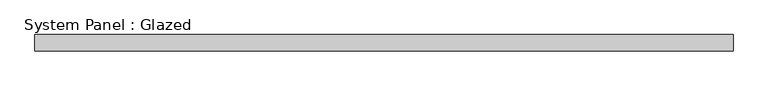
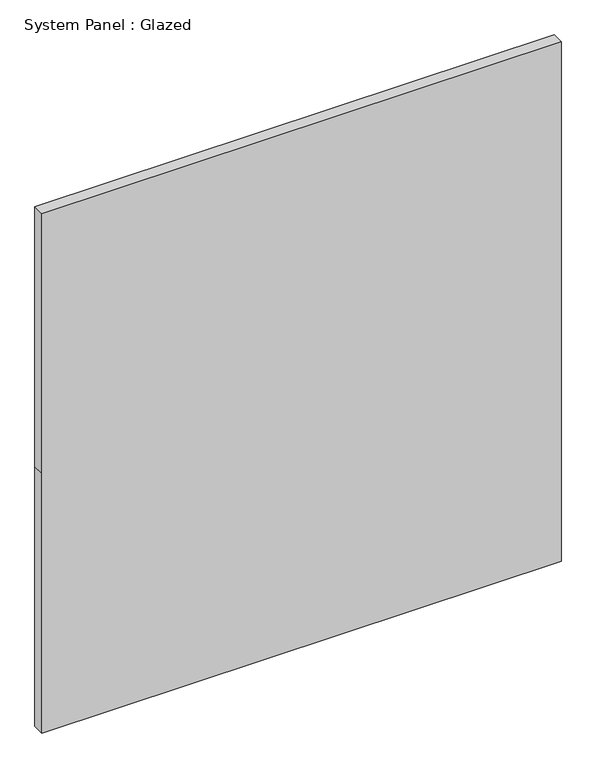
"""IFC4 building model written with IfcOpenShell, lengths in millimetres: plate geometry, System Panel : Glazed."""

import ifcopenshell
import ifcopenshell.guid

model = None  # the IFC model being written
_history = None  # IfcOwnerHistory: only IFC2X3 demands one
_inside = {}  # id of a spatial element -> (the spatial element, [elements in it])
_under = {}  # id of a project, library or spatial element -> (it, [spatial elements below it])
_declared = {}  # id of a project -> (the project, [libraries it declares])
_typed = {}  # id of a type object -> (the type object, [elements of that type])
_made_of = {}  # id of a material, layer set ... -> (it, [elements and type objects made of it])


def new_model(schema):
    """Start an empty IFC model of exactly this schema.

    Asked for "IFC4X3", IfcOpenShell would pick the latest addendum, in which some entities
    have other attributes; the version numbers below select the first issue.
    IFC2X3 requires an IfcOwnerHistory on every rooted entity: one is made here for all.
    """
    global model, _history
    if schema == "IFC4X3":
        model = ifcopenshell.file(schema_version=(4, 3, 0, 0))
    else:
        model = ifcopenshell.file(schema=schema)
    _inside.clear()
    _under.clear()
    _declared.clear()
    _typed.clear()
    _made_of.clear()
    _history = None
    if model.schema == "IFC2X3":
        org = make("IfcOrganization", Name="unknown")
        user = make(
            "IfcPersonAndOrganization",
            ThePerson=make("IfcPerson", FamilyName="unknown"),
            TheOrganization=org,
        )
        app = make(
            "IfcApplication",
            ApplicationDeveloper=org,
            Version="unknown",
            ApplicationFullName="unknown",
            ApplicationIdentifier="unknown",
        )
        _history = make(
            "IfcOwnerHistory",
            OwningUser=user,
            OwningApplication=app,
            ChangeAction="ADDED",
            CreationDate=0,
        )
    return model


def make(cls, **values):
    """One entity of the class cls with the attributes given. An attribute that is None is left unset."""
    return model.create_entity(
        cls, **{name: value for name, value in values.items() if value is not None}
    )


def rooted(cls, **values):
    """An entity with a GlobalId (a new one), such as an element, a storey or a relation."""
    return make(cls, GlobalId=ifcopenshell.guid.new(), OwnerHistory=_history, **values)


def si_unit(unit_type, name, prefix=None):
    """IfcSIUnit, for example si_unit("LENGTHUNIT", "METRE", prefix="MILLI")."""
    return make("IfcSIUnit", UnitType=unit_type, Prefix=prefix, Name=name)


def assignment(units):
    """IfcUnitAssignment: the units of a project."""
    return None if units is None else make("IfcUnitAssignment", Units=units)


def point(xyz):
    """IfcCartesianPoint."""
    return None if xyz is None else make("IfcCartesianPoint", Coordinates=xyz)


def direction(xyz):
    """IfcDirection."""
    return None if xyz is None else make("IfcDirection", DirectionRatios=xyz)


def frame(location, z_axis=None, x_axis=None):
    """IfcAxis2Placement3D, a coordinate frame: its origin and axes. An axis left out is left unset."""
    return make(
        "IfcAxis2Placement3D",
        Location=point(location),
        Axis=direction(z_axis),
        RefDirection=direction(x_axis),
    )


def origin():
    """The frame at (0, 0, 0) with its axes left unset."""
    return frame((0.0, 0.0, 0.0))


def place(relative_to, where):
    """IfcLocalPlacement: puts the frame where relative to a parent placement (None: the world)."""
    return make(
        "IfcLocalPlacement", PlacementRelTo=relative_to, RelativePlacement=where
    )


def context(
    kind, dimensions, precision=None, world=None, true_north=None, identifier=None
):
    """IfcGeometricRepresentationContext, for example the 3D "Model" context."""
    return make(
        "IfcGeometricRepresentationContext",
        ContextIdentifier=identifier,
        ContextType=kind,
        CoordinateSpaceDimension=dimensions,
        Precision=precision,
        WorldCoordinateSystem=world,
        TrueNorth=true_north,
    )


def project(units=None, contexts=None):
    """IfcProject with its units and contexts."""
    return rooted(
        "IfcProject",
        Name="project",
        RepresentationContexts=contexts,
        UnitsInContext=assignment(units),
    )


def spatial(cls, under=None, at=None, **own):
    """A site, building, storey or space (cls), placed at a placement, below another one or the project."""
    s = rooted(cls, ObjectPlacement=at, **own)
    if under is not None:
        _under.setdefault(under.id(), (under, []))[1].append(s)
    return s


def polyline(points):
    """IfcPolyline through the points."""
    return make("IfcPolyline", Points=[point(p) for p in points])


def outline(outer, holes=None, kind="AREA"):
    """IfcArbitraryClosedProfileDef: a profile drawn as a closed curve; with holes, ...WithVoids."""
    if holes is None:
        return make("IfcArbitraryClosedProfileDef", ProfileType=kind, OuterCurve=outer)
    return make(
        "IfcArbitraryProfileDefWithVoids",
        ProfileType=kind,
        OuterCurve=outer,
        InnerCurves=holes,
    )


def extrude(swept, where, along, depth):
    """IfcExtrudedAreaSolid: the profile swept, set in the frame where, extruded along a direction by depth."""
    return make(
        "IfcExtrudedAreaSolid",
        SweptArea=swept,
        Position=where,
        ExtrudedDirection=direction(along),
        Depth=depth,
    )


def shape(context_of_items, identifier, shape_type, items):
    """IfcShapeRepresentation: the items that make up one representation, for example the "Body"."""
    return make(
        "IfcShapeRepresentation",
        ContextOfItems=context_of_items,
        RepresentationIdentifier=identifier,
        RepresentationType=shape_type,
        Items=items,
    )


def source(mapping_origin, context_of_items, identifier, shape_type, items):
    """IfcRepresentationMap: a shape defined once, which mapped items show again and again."""
    return make(
        "IfcRepresentationMap",
        MappingOrigin=mapping_origin,
        MappedRepresentation=shape(context_of_items, identifier, shape_type, items),
    )


def transform(
    local_origin,
    x_axis=None,
    y_axis=None,
    z_axis=None,
    scale=None,
    scale2=None,
    scale3=None,
    uniform=True,
):
    """IfcCartesianTransformationOperator3D, or its non-uniform kind. x_axis, y_axis, z_axis: its Axis1, 2, 3."""
    if uniform:
        return make(
            "IfcCartesianTransformationOperator3D",
            Axis1=direction(x_axis),
            Axis2=direction(y_axis),
            LocalOrigin=point(local_origin),
            Scale=scale,
            Axis3=direction(z_axis),
        )
    return make(
        "IfcCartesianTransformationOperator3DnonUniform",
        Axis1=direction(x_axis),
        Axis2=direction(y_axis),
        LocalOrigin=point(local_origin),
        Scale=scale,
        Axis3=direction(z_axis),
        Scale2=scale2,
        Scale3=scale3,
    )


def mapped(mapping_source, mapping_target):
    """IfcMappedItem: shows the shape of a source again, moved by a transform."""
    return make(
        "IfcMappedItem", MappingSource=mapping_source, MappingTarget=mapping_target
    )


def made_of(thing, what):
    """Note that an element or type object is made of a material, layer set ...; save() writes the relation."""
    if what is not None:
        _made_of.setdefault(what.id(), (what, []))[1].append(thing)
    return thing


def element(
    cls,
    number,
    at=None,
    inside=None,
    cuts=None,
    type_object=None,
    material=None,
    context=None,
    identifier="Body",
    shape_type=None,
    held_by="IfcProductDefinitionShape",
    body=None,
    shapes=None,
    **own,
):
    """One element of the class cls, such as IfcWall. Its Tag is "e" and its number.

    at: its placement. inside: the storey or other place that contains it. cuts: it is an
    opening in that element (IfcRelVoidsElement). A single representation is given by context,
    identifier, shape_type and body (its items); several are given by shapes. held_by: the class
    of the entity that holds the representations. save() writes the other relations.
    """
    e = rooted(cls, Tag="e%d" % number, ObjectPlacement=at, **own)
    if body is not None:
        shapes = [shape(context, identifier, shape_type, body)]
    if shapes is not None:
        e.Representation = make(held_by, Representations=shapes)
    if inside is not None:
        _inside.setdefault(inside.id(), (inside, []))[1].append(e)
    if cuts is not None:
        rooted(
            "IfcRelVoidsElement", RelatingBuildingElement=cuts, RelatedOpeningElement=e
        )
    if type_object is not None:
        _typed.setdefault(type_object.id(), (type_object, []))[1].append(e)
    return made_of(e, material)


def aggregate(whole, parts):
    """IfcRelAggregates: a whole, such as a stair, and the parts it consists of."""
    return rooted("IfcRelAggregates", RelatingObject=whole, RelatedObjects=parts)


def save(model, path):
    """Write the relations noted so far, then the file.

    IfcRelAggregates (storeys below a building ...), IfcRelContainedInSpatialStructure (elements
    in a storey), IfcRelDefinesByType, IfcRelAssociatesMaterial and IfcRelDeclares: one each for
    every whole, place, type object, material and project.
    """
    for whole, parts in _under.values():
        aggregate(whole, parts)
    for where, things in _inside.values():
        rooted(
            "IfcRelContainedInSpatialStructure",
            RelatedElements=things,
            RelatingStructure=where,
        )
    for kind, things in _typed.values():
        rooted("IfcRelDefinesByType", RelatedObjects=things, RelatingType=kind)
    for what, things in _made_of.values():
        rooted("IfcRelAssociatesMaterial", RelatedObjects=things, RelatingMaterial=what)
    for by, libraries in _declared.values():
        rooted("IfcRelDeclares", RelatingContext=by, RelatedDefinitions=libraries)
    model.write(path)


def system_panel_glazed_d8346a96(model_context):
    return source(origin(), model_context, "Body", "SweptSolid", [
        extrude(outline(polyline([(0.0, -546.4175), (0.0, 546.4175), (577.85, 546.4175), (1155.7, 546.4175), (1155.7, -546.4175), (577.85, -546.4175), (0.0, -546.4175)])), frame((0.0, -44.45, 0.0), z_axis=(0.0, 1.0, 0.0), x_axis=(0.0, 0.0, 1.0)), (0.0, 0.0, 1.0), 25.4),
    ])


if __name__ == "__main__":
    model = new_model("IFC4")
    model_context = context("Model", 3, world=origin())
    ifc_project = project(units=[si_unit("LENGTHUNIT", "METRE", prefix="MILLI")], contexts=[model_context])
    site = spatial("IfcSite", under=ifc_project)
    building = spatial("IfcBuilding", under=site)
    placement = place(None, origin())
    system_panel_glazed_shape = system_panel_glazed_d8346a96(model_context)
    element("IfcPlate", 1, ObjectType="System Panel : Glazed", at=placement, inside=building, context=model_context, shape_type="MappedRepresentation", body=[
        mapped(system_panel_glazed_shape, transform((0.0, 0.0, 0.0), x_axis=(1.0, 0.0, 0.0), y_axis=(0.0, 1.0, 0.0), z_axis=(0.0, 0.0, 1.0))),
    ])
    save(model, "model.ifc")
